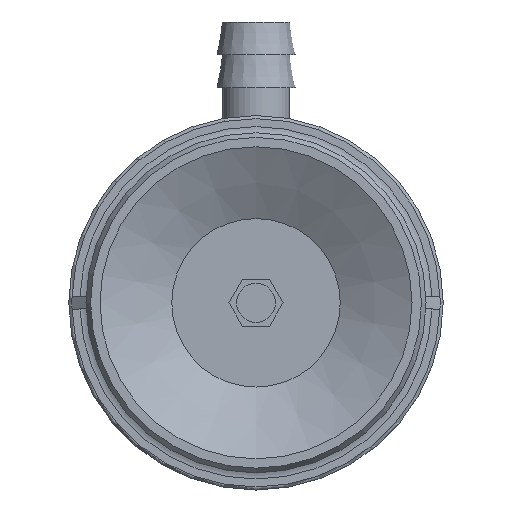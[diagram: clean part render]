
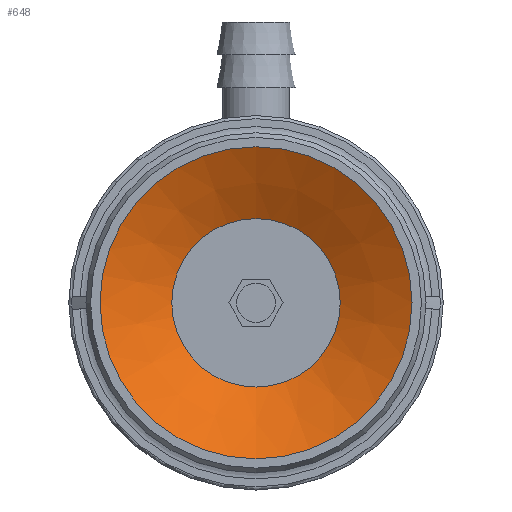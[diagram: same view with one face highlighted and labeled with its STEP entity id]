
A CAD part, front view. The second image highlights one B-rep face of the part: STEP entity #648.
In plain terms, the highlighted conical face has half-angle 61.631 degrees and reference radius 5.4 mm.
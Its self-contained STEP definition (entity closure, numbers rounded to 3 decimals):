
#648=ADVANCED_FACE('',(#995,#996),#997,.F.);
#995=FACE_BOUND('',#1384,.T.);
#996=FACE_OUTER_BOUND('',#1385,.T.);
#997=CONICAL_SURFACE('',#1386,5.4,1.076);
#1384=EDGE_LOOP('',(#2385));
#1385=EDGE_LOOP('',(#2386));
#1386=AXIS2_PLACEMENT_3D('',#2387,#2388,#2389);
#2385=ORIENTED_EDGE('',*,*,#2816,.F.);
#2386=ORIENTED_EDGE('',*,*,#2776,.T.);
#2387=CARTESIAN_POINT('',(0.0,2.484,0.0));
#2388=DIRECTION('',(-0.0,-1.0,0.));
#2389=DIRECTION('',(0.0,0.,-1.0));
#2776=EDGE_CURVE('',#3238,#3238,#3239,.T.);
#2816=EDGE_CURVE('',#3310,#3310,#3311,.T.);
#3238=VERTEX_POINT('',#4234);
#3239=CIRCLE('',#4235,10.0);
#3310=VERTEX_POINT('',#4318);
#3311=CIRCLE('',#4319,5.4);
#4234=CARTESIAN_POINT('',(0.0,0.,-10.0));
#4235=AXIS2_PLACEMENT_3D('',#4716,#4717,#4718);
#4318=CARTESIAN_POINT('',(0.0,2.484,-5.4));
#4319=AXIS2_PLACEMENT_3D('',#4812,#4813,#4814);
#4716=CARTESIAN_POINT('',(0.0,0.0,0.0));
#4717=DIRECTION('',(0.0,-1.0,0.));
#4718=DIRECTION('',(0.0,0.,-1.0));
#4812=CARTESIAN_POINT('',(0.0,2.484,0.0));
#4813=DIRECTION('',(0.0,-1.0,0.));
#4814=DIRECTION('',(0.0,0.,-1.0));
